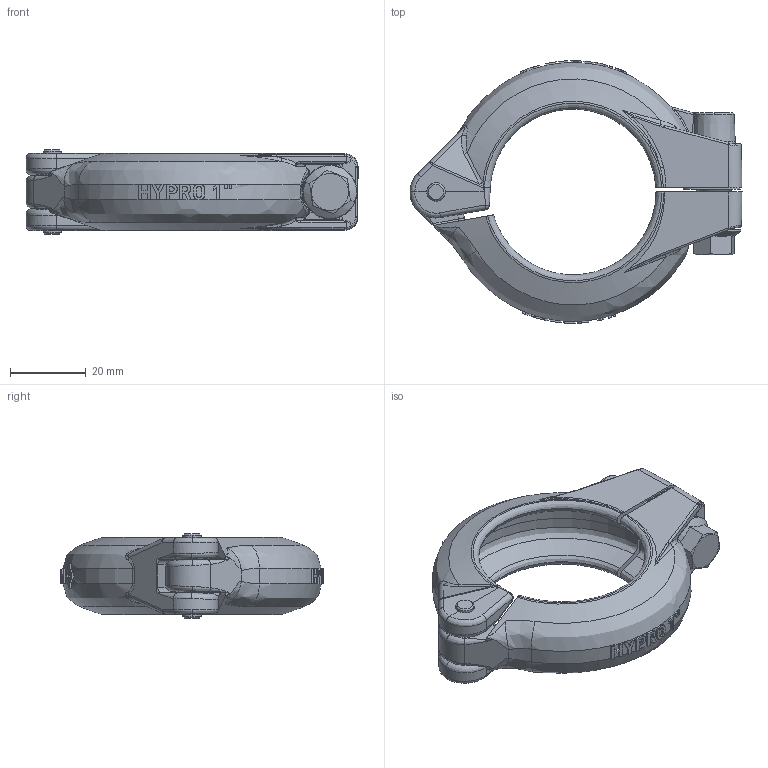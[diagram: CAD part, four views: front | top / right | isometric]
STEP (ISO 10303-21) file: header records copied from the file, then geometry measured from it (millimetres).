
FILE_DESCRIPTION (( 'STEP AP203' ), '1' );
FILE_NAME ('UFC0100.STEP', '2015-04-29T15:48:22', ( '' ), ( '' ), 'SwSTEP 2.0', 'SolidWorks 2012', '' );
FILE_SCHEMA (( 'CONFIG_CONTROL_DESIGN' ));
Products named in the file (1): UFC0100
Bounding box: 87.38 x 69.09 x 22.23 mm (x, y, z)
Volume: 29720.5 mm3; surface area: 18310 mm2
Topology: 6 solids, 6 shells, 651 faces, 1658 edges, 1023 vertices
Faces by surface type: plane 242, bspline 230, cylinder 112, cone 51, torus 12, sphere 4
Entity records: 43018 total; most frequent: CARTESIAN_POINT 29586, ORIENTED_EDGE 3284, DIRECTION 2118, EDGE_CURVE 1642, VERTEX_POINT 1023, AXIS2_PLACEMENT_3D 779, EDGE_LOOP 687, FACE_OUTER_BOUND 651
